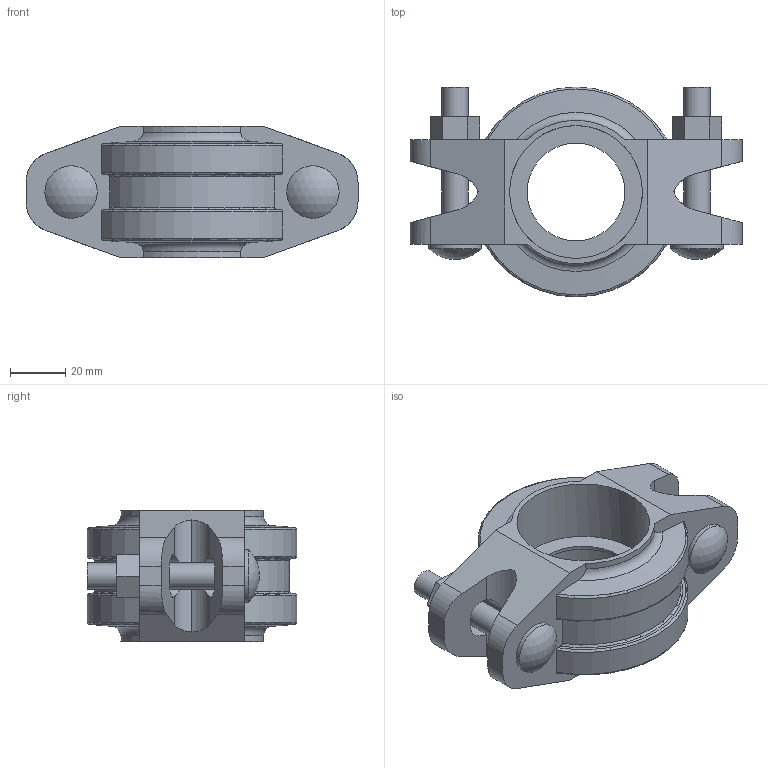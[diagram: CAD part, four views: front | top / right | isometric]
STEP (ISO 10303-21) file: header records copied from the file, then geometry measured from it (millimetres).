
FILE_DESCRIPTION(/* description */ ('VIC STYLE 005H FIRELOCK RIGID COUPLING','CAx-IF Rec.Pracs.---Representation and Presentation of Product Manufacturing Information (PMI)---4.0---2014-10-13'),/* implementation_level */ '2;1');
FILE_NAME(/* name */ 'C:\Users\Vjadhav\Desktop\CAD for Inventor\1\Coupling bolt thickness\005H\STEP\Victaulic_FP-FireLock_Coupling Rigid_Style 005H (OGS)\Victaulic_FP-FireLock_Coupling Rigid_Style 005H (OGS)_1.5 (40).stp',/* time_stamp */ '2022-03-28T11:24:29+06:00',/* author */ ('jheald'),/* organization */ ('Victaulic'),/* preprocessor_version */ 'ST-DEVELOPER v17.2',/* originating_system */ 'Autodesk Inventor 2019',/* authorisation */ '');
FILE_SCHEMA (('AP242_MANAGED_MODEL_BASED_3D_ENGINEERING_MIM_LF { 1 0 10303 442 1 1 4 }'));
Length unit declared in the file: inch
Products named in the file (1): 005H-01.5
Bounding box: 120.65 x 76.2 x 47.75 mm (x, y, z)
Volume: 145958.9 mm3; surface area: 37730.8 mm2
Topology: 1 solids, 1 shells, 113 faces, 333 edges, 226 vertices
Faces by surface type: plane 52, cylinder 39, torus 16, cone 4, sphere 2
Full cylindrical faces by diameter (mm): 9.525 x4, 19.05 x2, 35.56 x1, 48.26 x2
Entity records: 4388 total; most frequent: CARTESIAN_POINT 1082, ORIENTED_EDGE 666, DIRECTION 653, EDGE_CURVE 333, AXIS2_PLACEMENT_3D 241, VERTEX_POINT 226, LINE 171, VECTOR 171
